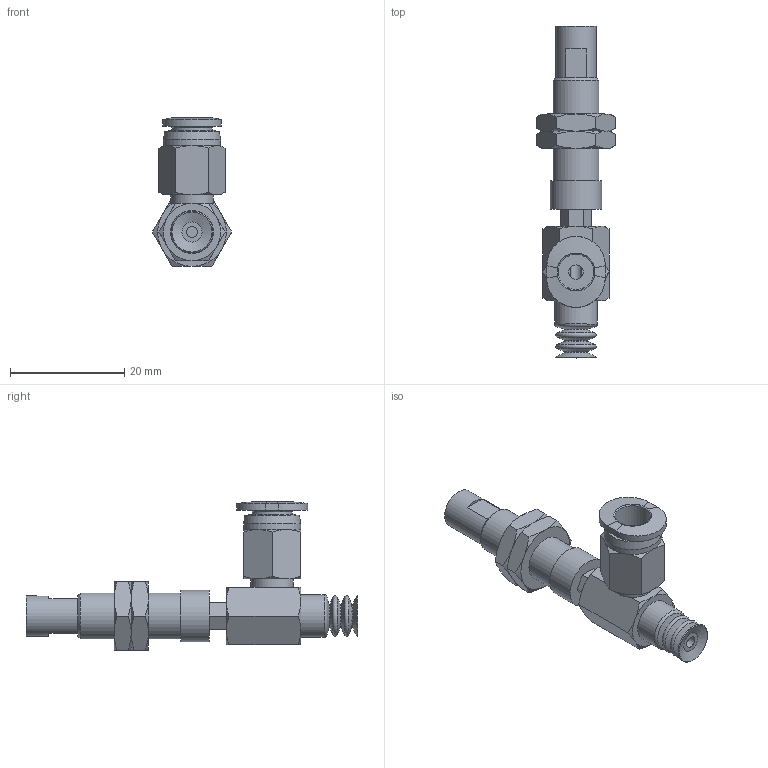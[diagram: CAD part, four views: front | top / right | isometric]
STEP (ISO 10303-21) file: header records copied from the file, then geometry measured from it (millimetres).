
FILE_DESCRIPTION(('STEP AP203'),'1');
FILE_NAME('-O.stp','2025-04-03T07:36:14',(' '),(' '),'Spatial InterOp 3D',' ',' ');
FILE_SCHEMA(('CONFIG_CONTROL_DESIGN'));
Length unit declared in the file: millimetre
Products named in the file (7): BNABPCYH-7-3-※-O; Connector_h-7-3; Nut napc_h-7-3; NAPCTH-7-3-FBODY; NAPCTH-7-3-MBODY; BPCG-7-※; PC-C_06-M5
Assembly tree (7 placements, depth 2):
  BNABPCYH-7-3-※-O
    Connector_h-7-3
    Nut napc_h-7-3  x2
    NAPCTH-7-3-FBODY
    NAPCTH-7-3-MBODY
    BPCG-7-※
    PC-C_06-M5
Bounding box: 13.86 x 58 x 25.98 mm (x, y, z)
Volume: 3333.3 mm3; surface area: 5203.9 mm2
Topology: 6 solids, 9 shells, 197 faces, 412 edges, 247 vertices
Faces by surface type: plane 80, cone 71, cylinder 24, torus 15, bspline 4, revolution 3
Full cylindrical faces by diameter (mm): 2 x2, 4 x4, 4.134 x2, 5 x2, 6 x2, 7 x2, 7.188 x2, 7.4 x1, 7.5 x1, 8 x1, 8.2 x1, 9 x1, 10 x1
Entity records: 5096 total; most frequent: CARTESIAN_POINT 1395, DIRECTION 693, ORIENTED_EDGE 600, EDGE_CURVE 302, AXIS2_PLACEMENT_3D 298, EDGE_LOOP 258, VERTEX_POINT 214, FACE_OUTER_BOUND 150
